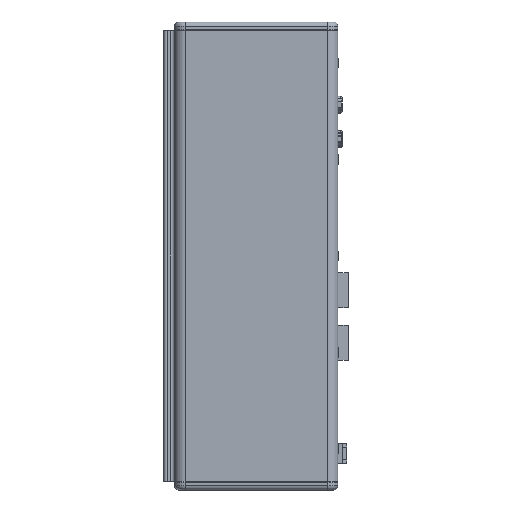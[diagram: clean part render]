
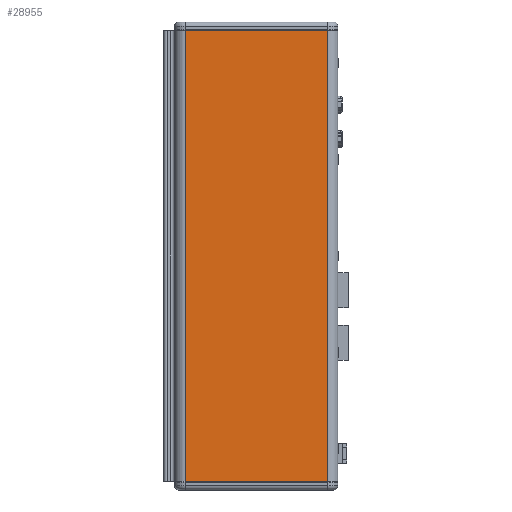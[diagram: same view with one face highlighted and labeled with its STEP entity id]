
A CAD part, left-side view. The second image highlights one B-rep face of the part: STEP entity #28955.
In plain terms, the highlighted planar face has unit normal (-1, 0, 0).
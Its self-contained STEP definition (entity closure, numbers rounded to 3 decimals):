
#2245 = CARTESIAN_POINT ( 'NONE',  ( -58.399, 40.219, 0. ) ) ;
#13617 = EDGE_CURVE ( 'NONE', #21181, #40594, #44211, .T. ) ;
#14652 = DIRECTION ( 'NONE',  ( -1., 0., 0. ) ) ;
#15806 = FACE_OUTER_BOUND ( 'NONE', #34954, .T. ) ;
#18526 = EDGE_CURVE ( 'NONE', #40594, #30668, #63293, .T. ) ;
#20406 = DIRECTION ( 'NONE',  ( 0., 0., -1. ) ) ;
#20560 = CARTESIAN_POINT ( 'NONE',  ( -58.399, 35.219, 0. ) ) ;
#20578 = ORIENTED_EDGE ( 'NONE', *, *, #32684, .F. ) ;
#21181 = VERTEX_POINT ( 'NONE', #53176 ) ;
#26068 = ORIENTED_EDGE ( 'NONE', *, *, #13617, .T. ) ;
#28453 = CARTESIAN_POINT ( 'NONE',  ( -58.399, 40.219, 210. ) ) ;
#28955 = ADVANCED_FACE ( 'NONE', ( #15806 ), #39404, .T. ) ;
#30668 = VERTEX_POINT ( 'NONE', #45875 ) ;
#30929 = ORIENTED_EDGE ( 'NONE', *, *, #60958, .T. ) ;
#31044 = LINE ( 'NONE', #28453, #32367 ) ;
#31184 = CARTESIAN_POINT ( 'NONE',  ( -58.399, -30.931, 0. ) ) ;
#32367 = VECTOR ( 'NONE', #71819, 1000. ) ;
#32684 = EDGE_CURVE ( 'NONE', #21181, #47796, #31044, .T. ) ;
#34954 = EDGE_LOOP ( 'NONE', ( #20578, #26068, #52268, #30929 ) ) ;
#37461 = DIRECTION ( 'NONE',  ( 0., 0., 1. ) ) ;
#39404 = PLANE ( 'NONE',  #56699 ) ;
#40594 = VERTEX_POINT ( 'NONE', #62521 ) ;
#44211 = LINE ( 'NONE', #20560, #45150 ) ;
#44974 = VECTOR ( 'NONE', #72529, 1000. ) ;
#45150 = VECTOR ( 'NONE', #20406, 1000. ) ;
#45875 = CARTESIAN_POINT ( 'NONE',  ( -58.399, -30.931, 0. ) ) ;
#47106 = VECTOR ( 'NONE', #37461, 1000. ) ;
#47796 = VERTEX_POINT ( 'NONE', #52297 ) ;
#52006 = LINE ( 'NONE', #31184, #47106 ) ;
#52268 = ORIENTED_EDGE ( 'NONE', *, *, #18526, .T. ) ;
#52297 = CARTESIAN_POINT ( 'NONE',  ( -58.399, -30.931, 210. ) ) ;
#53176 = CARTESIAN_POINT ( 'NONE',  ( -58.399, 35.219, 210. ) ) ;
#56699 = AXIS2_PLACEMENT_3D ( 'NONE', #2245, #14652, #58105 ) ;
#58105 = DIRECTION ( 'NONE',  ( 0., 0., 1. ) ) ;
#60958 = EDGE_CURVE ( 'NONE', #30668, #47796, #52006, .T. ) ;
#62521 = CARTESIAN_POINT ( 'NONE',  ( -58.399, 35.219, 0. ) ) ;
#63293 = LINE ( 'NONE', #72787, #44974 ) ;
#71819 = DIRECTION ( 'NONE',  ( 0., -1., 0. ) ) ;
#72529 = DIRECTION ( 'NONE',  ( 0., -1., 0. ) ) ;
#72787 = CARTESIAN_POINT ( 'NONE',  ( -58.399, 40.219, 0. ) ) ;
